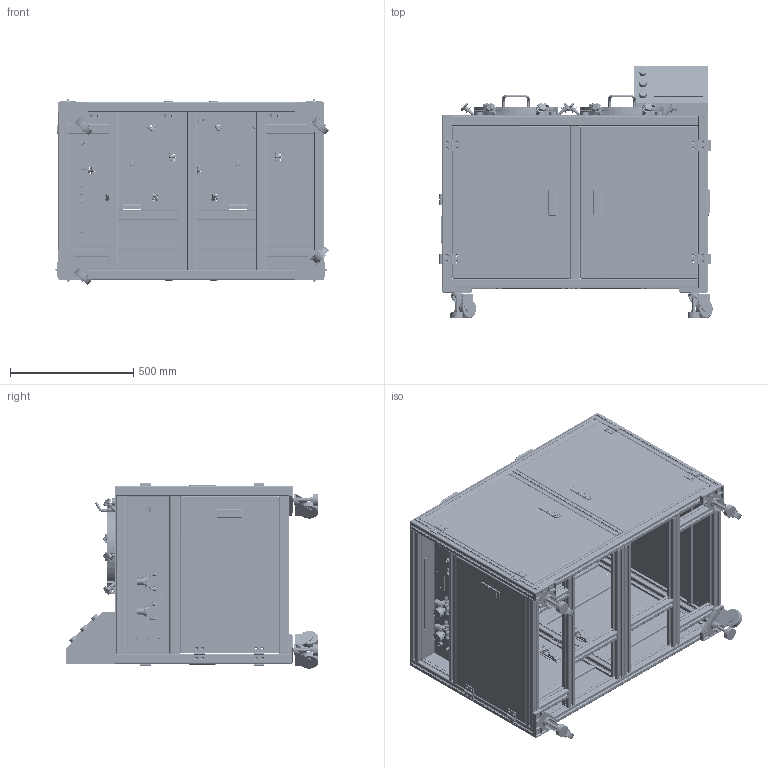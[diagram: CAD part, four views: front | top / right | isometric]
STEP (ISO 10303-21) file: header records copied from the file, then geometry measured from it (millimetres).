
FILE_DESCRIPTION (( 'STEP AP203' ), '1' );
FILE_NAME ('NFY260.STEP', '2026-08-28T05:16:13', ( '' ), ( '' ), 'SwSTEP 2.0', 'SolidWorks 2024', '' );
FILE_SCHEMA (( 'CONFIG_CONTROL_DESIGN' ));
Products named in the file (1): NFY260
Bounding box: 1109.09 x 1025 x 751.92 mm (x, y, z)
Volume: 60244613 mm3; surface area: 17165062.5 mm2
Topology: 216 solids, 219 shells, 16667 faces, 44924 edges, 29266 vertices
Faces by surface type: plane 9840, cylinder 3648, bspline 1801, cone 790, torus 402, sphere 186
Entity records: 598888 total; most frequent: CARTESIAN_POINT 187438, ORIENTED_EDGE 89632, DIRECTION 78222, EDGE_CURVE 44816, LINE 30492, VECTOR 30492, VERTEX_POINT 29218, AXIS2_PLACEMENT_3D 23865
